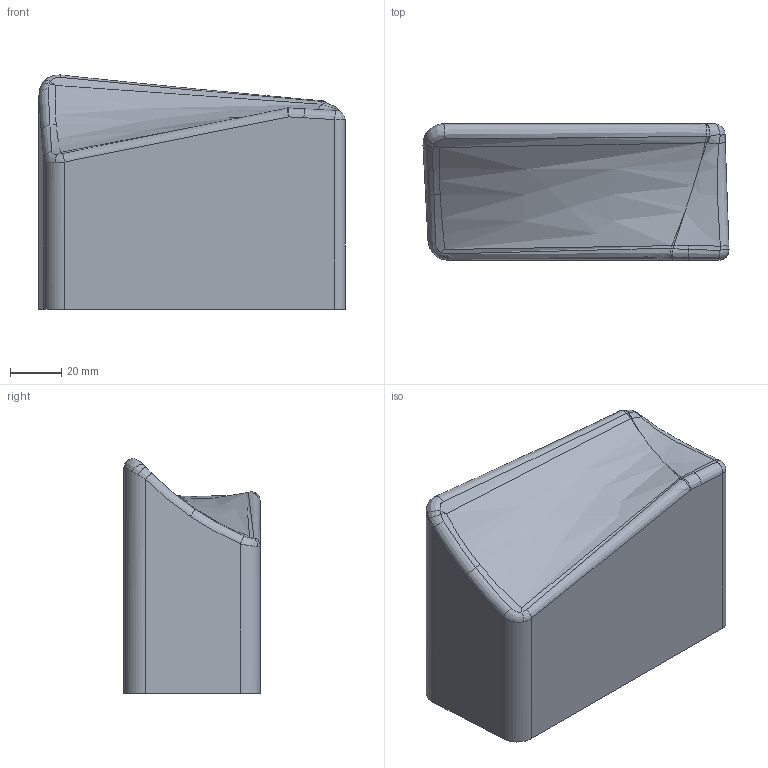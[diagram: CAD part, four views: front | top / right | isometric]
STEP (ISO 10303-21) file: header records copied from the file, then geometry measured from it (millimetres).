
FILE_DESCRIPTION(('CATIA V5 STEP Exchange','CAx-IF Rec.Pracs.--- Model Styling and Organization---1.5--- 2016-08-15','CAx-IF Rec.Pracs.---Supplemental Geometry---1.0---2011-11-01','CAx-IF Rec.Pracs.--- Composite Materials ---1.1---2010-07-15','CAx-IF Rec.Pracs.---External References---2.1---2005-01-19'),'2;1');
FILE_NAME('E:\WAT\Sprezarka\121_00_00_Tlocznik1\Tlocznik1_KPL\Tlocznik1_stp\121_03_50_Stempel.stp','2023-08-01T08:49:44+00:00',('none'),('none'),'CATIA Version 5-6 Release 2022 SP3','CATIA V5 STEP AP214 v2','none');
FILE_SCHEMA(('AUTOMOTIVE_DESIGN { 1 0 10303 214 1 1 1 1 }'));
Length unit declared in the file: millimetre
Products named in the file (1): 121_03_50_Stempel
Bounding box: 119.19 x 53 x 91.25 mm (x, y, z)
Volume: 466672.1 mm3; surface area: 40126.2 mm2
Topology: 1 solids, 1 shells, 64 faces, 164 edges, 95 vertices
Faces by surface type: bspline 39, cylinder 12, cone 8, plane 5
Entity records: 6279 total; most frequent: CARTESIAN_POINT 5049, ORIENTED_EDGE 296, EDGE_CURVE 148, B_SPLINE_CURVE_WITH_KNOTS 100, VERTEX_POINT 90, DIRECTION 86, EDGE_LOOP 68, ADVANCED_FACE 64
